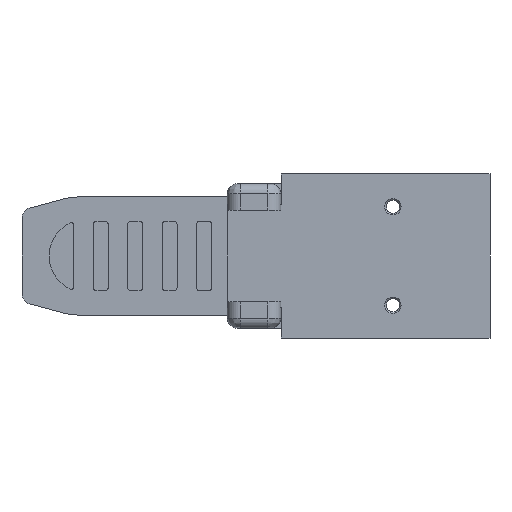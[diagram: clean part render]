
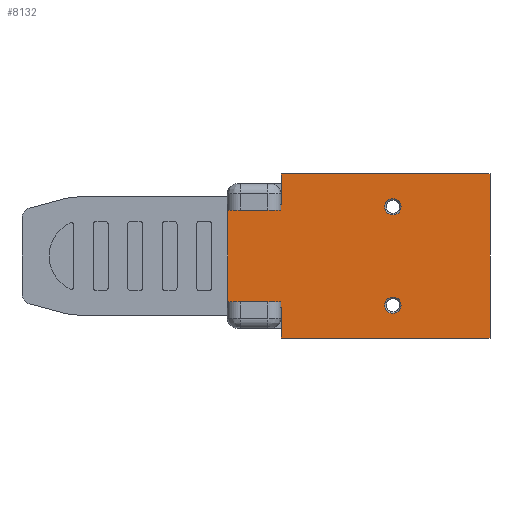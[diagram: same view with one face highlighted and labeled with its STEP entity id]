
A CAD part, front view. The second image highlights one B-rep face of the part: STEP entity #8132.
In plain terms, the highlighted planar face has unit normal (0, -1, 0).
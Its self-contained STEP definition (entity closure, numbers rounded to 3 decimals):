
#36 = CARTESIAN_POINT ( 'NONE',  ( -6., -5., 7.8 ) ) ;
#84 = VECTOR ( 'NONE', #2381, 1000. ) ;
#137 = EDGE_CURVE ( 'NONE', #11919, #8143, #4133, .T. ) ;
#238 = CARTESIAN_POINT ( 'NONE',  ( -14.2, -5., -7.8 ) ) ;
#526 = LINE ( 'NONE', #1644, #12110 ) ;
#529 = CARTESIAN_POINT ( 'NONE',  ( 11., -5., 7.5 ) ) ;
#1028 = VERTEX_POINT ( 'NONE', #6640 ) ;
#1167 = CARTESIAN_POINT ( 'NONE',  ( 11., -5., -7.5 ) ) ;
#1213 = PLANE ( 'NONE',  #4075 ) ;
#1253 = AXIS2_PLACEMENT_3D ( 'NONE', #2810, #9793, #3834 ) ;
#1312 = LINE ( 'NONE', #4069, #10214 ) ;
#1380 = CARTESIAN_POINT ( 'NONE',  ( -14.2, -5., -12.5 ) ) ;
#1405 = ORIENTED_EDGE ( 'NONE', *, *, #5800, .T. ) ;
#1644 = CARTESIAN_POINT ( 'NONE',  ( -6., -5., 12.5 ) ) ;
#1771 = CARTESIAN_POINT ( 'NONE',  ( 11., -5., -6.25 ) ) ;
#2047 = CARTESIAN_POINT ( 'NONE',  ( -14.2, -5., 7.8 ) ) ;
#2164 = DIRECTION ( 'NONE',  ( 0., 0., 1. ) ) ;
#2297 = CARTESIAN_POINT ( 'NONE',  ( -6., -5., -7.8 ) ) ;
#2357 = DIRECTION ( 'NONE',  ( 0., 0., -1. ) ) ;
#2381 = DIRECTION ( 'NONE',  ( 1., 0., 0. ) ) ;
#2405 = ORIENTED_EDGE ( 'NONE', *, *, #7452, .F. ) ;
#2513 = DIRECTION ( 'NONE',  ( 0., 0., 1. ) ) ;
#2578 = CARTESIAN_POINT ( 'NONE',  ( -14.2, -5., 7.8 ) ) ;
#2810 = CARTESIAN_POINT ( 'NONE',  ( 11., -5., 7.5 ) ) ;
#3165 = ORIENTED_EDGE ( 'NONE', *, *, #3306, .T. ) ;
#3246 = VERTEX_POINT ( 'NONE', #7547 ) ;
#3306 = EDGE_CURVE ( 'NONE', #8571, #8274, #9945, .T. ) ;
#3312 = DIRECTION ( 'NONE',  ( 0., 1., 0. ) ) ;
#3317 = FACE_BOUND ( 'NONE', #7992, .T. ) ;
#3384 = EDGE_CURVE ( 'NONE', #6770, #1028, #6467, .T. ) ;
#3803 = EDGE_CURVE ( 'NONE', #3246, #8866, #4633, .T. ) ;
#3834 = DIRECTION ( 'NONE',  ( 0., 0., 1. ) ) ;
#4069 = CARTESIAN_POINT ( 'NONE',  ( 25.8, -5., 12.5 ) ) ;
#4075 = AXIS2_PLACEMENT_3D ( 'NONE', #9285, #3312, #10283 ) ;
#4082 = CARTESIAN_POINT ( 'NONE',  ( 11., -5., 6.25 ) ) ;
#4133 = LINE ( 'NONE', #9678, #9435 ) ;
#4312 = VECTOR ( 'NONE', #6505, 1000. ) ;
#4324 = CARTESIAN_POINT ( 'NONE',  ( -14.2, -5., -7.8 ) ) ;
#4443 = VECTOR ( 'NONE', #5094, 1000. ) ;
#4477 = DIRECTION ( 'NONE',  ( 0., 0., -1. ) ) ;
#4633 = CIRCLE ( 'NONE', #8460, 1.25 ) ;
#4954 = EDGE_CURVE ( 'NONE', #8866, #3246, #11510, .T. ) ;
#5029 = ORIENTED_EDGE ( 'NONE', *, *, #3803, .T. ) ;
#5094 = DIRECTION ( 'NONE',  ( 1., 0., 0. ) ) ;
#5267 = CARTESIAN_POINT ( 'NONE',  ( 11., -5., -7.5 ) ) ;
#5304 = ORIENTED_EDGE ( 'NONE', *, *, #12432, .F. ) ;
#5491 = CARTESIAN_POINT ( 'NONE',  ( 11., -5., 8.75 ) ) ;
#5543 = CIRCLE ( 'NONE', #1253, 1.25 ) ;
#5767 = VERTEX_POINT ( 'NONE', #11673 ) ;
#5800 = EDGE_CURVE ( 'NONE', #8274, #8571, #5543, .T. ) ;
#6360 = LINE ( 'NONE', #238, #11657 ) ;
#6467 = LINE ( 'NONE', #1380, #84 ) ;
#6505 = DIRECTION ( 'NONE',  ( 1., 0., 0. ) ) ;
#6611 = VERTEX_POINT ( 'NONE', #11821 ) ;
#6640 = CARTESIAN_POINT ( 'NONE',  ( 25.8, -5., -12.5 ) ) ;
#6770 = VERTEX_POINT ( 'NONE', #11355 ) ;
#6879 = EDGE_CURVE ( 'NONE', #11919, #8545, #12273, .T. ) ;
#7079 = LINE ( 'NONE', #12482, #4443 ) ;
#7221 = DIRECTION ( 'NONE',  ( -1., 0., 0. ) ) ;
#7282 = CARTESIAN_POINT ( 'NONE',  ( -6., -5., 12.5 ) ) ;
#7287 = VECTOR ( 'NONE', #2357, 1000. ) ;
#7452 = EDGE_CURVE ( 'NONE', #5767, #1028, #1312, .T. ) ;
#7547 = CARTESIAN_POINT ( 'NONE',  ( 11., -5., -8.75 ) ) ;
#7618 = ORIENTED_EDGE ( 'NONE', *, *, #6879, .F. ) ;
#7974 = ORIENTED_EDGE ( 'NONE', *, *, #4954, .T. ) ;
#7992 = EDGE_LOOP ( 'NONE', ( #1405, #3165 ) ) ;
#8128 = DIRECTION ( 'NONE',  ( 0., 1., 0. ) ) ;
#8132 = ADVANCED_FACE ( 'NONE', ( #10953, #3317, #11279 ), #1213, .F. ) ;
#8143 = VERTEX_POINT ( 'NONE', #4324 ) ;
#8190 = ORIENTED_EDGE ( 'NONE', *, *, #12066, .T. ) ;
#8274 = VERTEX_POINT ( 'NONE', #5491 ) ;
#8280 = ORIENTED_EDGE ( 'NONE', *, *, #3384, .T. ) ;
#8460 = AXIS2_PLACEMENT_3D ( 'NONE', #5267, #11241, #11325 ) ;
#8545 = VERTEX_POINT ( 'NONE', #36 ) ;
#8571 = VERTEX_POINT ( 'NONE', #4082 ) ;
#8597 = DIRECTION ( 'NONE',  ( 0., 0., -1. ) ) ;
#8790 = EDGE_CURVE ( 'NONE', #6611, #5767, #7079, .T. ) ;
#8866 = VERTEX_POINT ( 'NONE', #1771 ) ;
#9285 = CARTESIAN_POINT ( 'NONE',  ( -14.2, -5., 12.5 ) ) ;
#9435 = VECTOR ( 'NONE', #4477, 1000. ) ;
#9487 = DIRECTION ( 'NONE',  ( 0., 1., 0. ) ) ;
#9678 = CARTESIAN_POINT ( 'NONE',  ( -14.2, -5., 12.5 ) ) ;
#9793 = DIRECTION ( 'NONE',  ( 0., 1., 0. ) ) ;
#9945 = CIRCLE ( 'NONE', #10150, 1.25 ) ;
#9976 = EDGE_CURVE ( 'NONE', #10394, #6770, #526, .T. ) ;
#10150 = AXIS2_PLACEMENT_3D ( 'NONE', #529, #9487, #2513 ) ;
#10214 = VECTOR ( 'NONE', #11043, 1000. ) ;
#10283 = DIRECTION ( 'NONE',  ( 0., 0., 1. ) ) ;
#10394 = VERTEX_POINT ( 'NONE', #2297 ) ;
#10432 = ORIENTED_EDGE ( 'NONE', *, *, #9976, .T. ) ;
#10741 = ORIENTED_EDGE ( 'NONE', *, *, #137, .T. ) ;
#10953 = FACE_BOUND ( 'NONE', #12437, .T. ) ;
#11024 = ORIENTED_EDGE ( 'NONE', *, *, #8790, .F. ) ;
#11043 = DIRECTION ( 'NONE',  ( 0., 0., -1. ) ) ;
#11241 = DIRECTION ( 'NONE',  ( 0., 1., 0. ) ) ;
#11276 = AXIS2_PLACEMENT_3D ( 'NONE', #1167, #8128, #2164 ) ;
#11279 = FACE_OUTER_BOUND ( 'NONE', #11547, .T. ) ;
#11325 = DIRECTION ( 'NONE',  ( 0., 0., 1. ) ) ;
#11355 = CARTESIAN_POINT ( 'NONE',  ( -6., -5., -12.5 ) ) ;
#11510 = CIRCLE ( 'NONE', #11276, 1.25 ) ;
#11547 = EDGE_LOOP ( 'NONE', ( #5304, #10432, #8280, #2405, #11024, #8190, #7618, #10741 ) ) ;
#11657 = VECTOR ( 'NONE', #7221, 1000. ) ;
#11673 = CARTESIAN_POINT ( 'NONE',  ( 25.8, -5., 12.5 ) ) ;
#11821 = CARTESIAN_POINT ( 'NONE',  ( -6., -5., 12.5 ) ) ;
#11919 = VERTEX_POINT ( 'NONE', #2047 ) ;
#12066 = EDGE_CURVE ( 'NONE', #6611, #8545, #12306, .T. ) ;
#12110 = VECTOR ( 'NONE', #8597, 1000. ) ;
#12273 = LINE ( 'NONE', #2578, #4312 ) ;
#12306 = LINE ( 'NONE', #7282, #7287 ) ;
#12432 = EDGE_CURVE ( 'NONE', #10394, #8143, #6360, .T. ) ;
#12437 = EDGE_LOOP ( 'NONE', ( #7974, #5029 ) ) ;
#12482 = CARTESIAN_POINT ( 'NONE',  ( -14.2, -5., 12.5 ) ) ;
